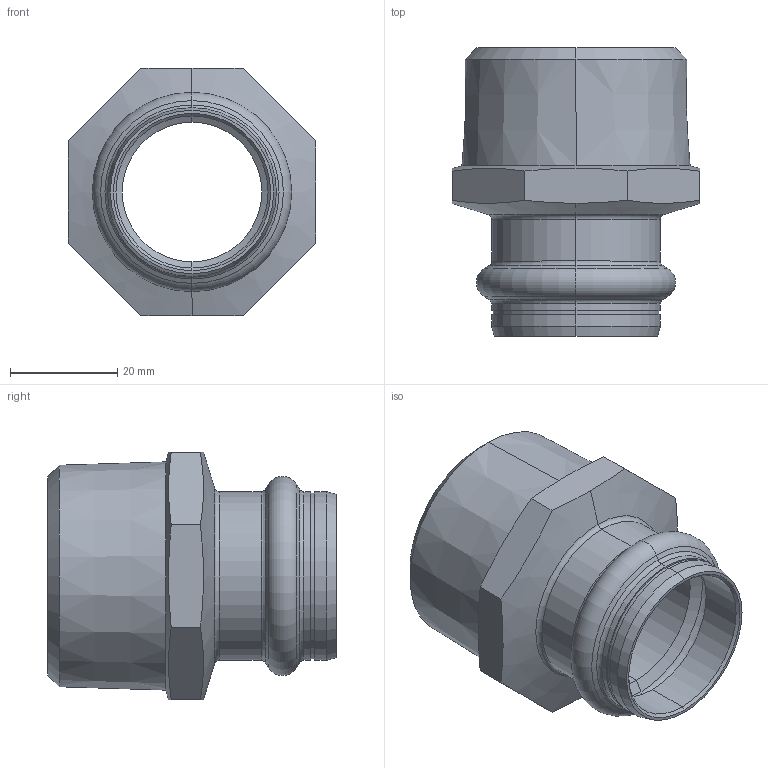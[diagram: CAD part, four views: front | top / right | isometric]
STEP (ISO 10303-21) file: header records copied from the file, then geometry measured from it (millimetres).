
FILE_DESCRIPTION (( 'STEP AP203' ), '1' );
FILE_NAME ('SP4243G Ø28 1 1-4.STEP', '2017-04-26T07:50:35', ( '' ), ( '' ), 'SwSTEP 2.0', 'SolidWorks 2016', '' );
FILE_SCHEMA (( 'CONFIG_CONTROL_DESIGN' ));
Length unit declared in the file: millimetre
Products named in the file (1): SP4243G Ø28 1 1-4
Bounding box: 46 x 53.7 x 46 mm (x, y, z)
Volume: 24746.8 mm3; surface area: 13866.4 mm2
Topology: 1 solids, 1 shells, 63 faces, 136 edges, 78 vertices
Faces by surface type: cone 24, cylinder 16, plane 13, torus 10
Entity records: 1851 total; most frequent: CARTESIAN_POINT 394, DIRECTION 312, ORIENTED_EDGE 272, EDGE_CURVE 136, AXIS2_PLACEMENT_3D 132, VERTEX_POINT 78, CIRCLE 68, EDGE_LOOP 68
